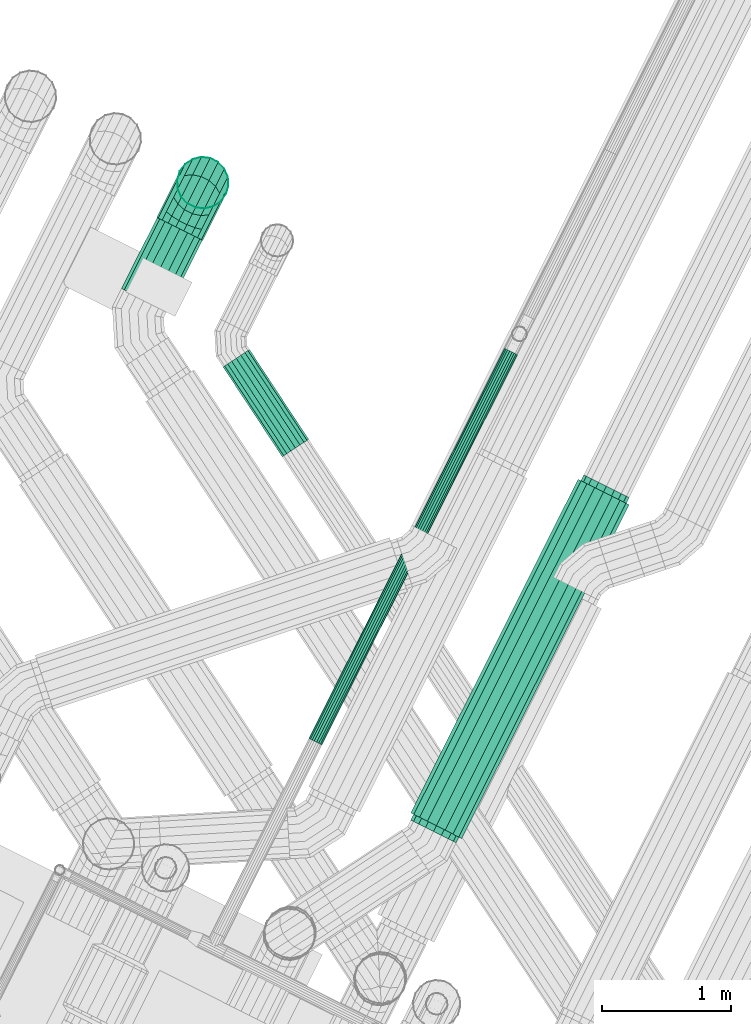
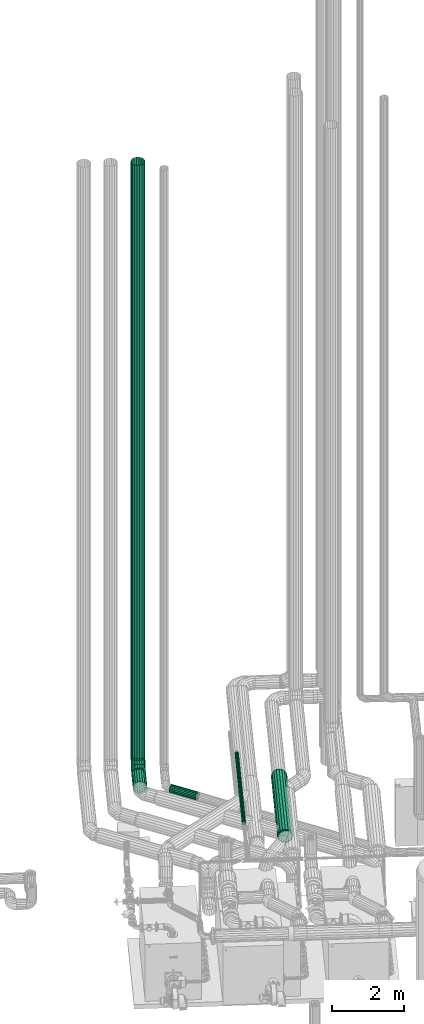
# One storey, part 20 of 206: 4 flow segments, 1 flow fitting, 1 flow treatment device.
"""IFC2X3 building model written with IfcOpenShell, lengths in metres."""

from ifc_helpers import new_model, si_unit, derived_unit, direction, frame, origin, place, context, subcontext, project, spatial, face_set, surface_model, source, transform, mapped, material, type_object, type_shapes, element, save


model = new_model("IFC2X3")

# Units and contexts
model_context = context("Model", 3, precision=5.2338327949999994e-05, world=origin(), true_north=direction((0.0, 1.0)))
body_context = subcontext(model_context, "Body", "Model", "MODEL_VIEW")
ifc_project = project(units=[si_unit("LENGTHUNIT", "METRE"), si_unit("AREAUNIT", "SQUARE_METRE"), si_unit("VOLUMEUNIT", "CUBIC_METRE"), si_unit("MASSUNIT", "GRAM", prefix="KILO"), si_unit("PLANEANGLEUNIT", "RADIAN"), derived_unit("THERMALTRANSMITTANCEUNIT", [(si_unit("MASSUNIT", "GRAM", prefix="KILO"), 1), (si_unit("THERMODYNAMICTEMPERATUREUNIT", "KELVIN"), -1), (si_unit("TIMEUNIT", "SECOND"), -3)])], contexts=[model_context])

# Site, building, storey
site_placement = place(None, frame((0.0, 0.0, 0.0), z_axis=(0.0, 0.0, 1.0), x_axis=(0.8939966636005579, -0.4480736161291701, 0.0)))
site = spatial("IfcSite", under=ifc_project, at=site_placement, Name="Default", CompositionType="ELEMENT")
building_placement = place(site_placement, origin())
building = spatial("IfcBuilding", under=site, at=building_placement, CompositionType="ELEMENT")
storey_placement = place(building_placement, origin())
storey = spatial("IfcBuildingStorey", under=building, at=storey_placement, Name="Erdgeschoss", CompositionType="ELEMENT", Elevation=0.0)

# Flow fitting
ifc_material_1 = material(Name="IfcSurfaceStyle #251447")
distribution_element_type_1 = type_object("IfcDistributionElementType", Name="Segmentbogen 4 teilig 281778:Segmentbogen 4 teilig 281778", material=ifc_material_1)
shared_shape_1 = source(origin(), body_context, "Body", "SurfaceModel", [
    surface_model("IfcFaceBasedSurfaceModel", [(20.75725947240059, 12.947668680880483, 2.200000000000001), (20.76932094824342, 12.947668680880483, 2.2684040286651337), (20.76932094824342, 13.036519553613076, 2.2684040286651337), (20.75725947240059, 13.054848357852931, 2.200000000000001), (20.804050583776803, 12.947668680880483, 2.3285575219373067), (20.804050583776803, 13.020401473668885, 2.3285575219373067), (20.857259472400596, 12.947668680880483, 2.3732050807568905), (20.857259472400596, 13.008438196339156, 2.3732050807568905), (20.922529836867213, 12.947668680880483, 2.3969615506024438), (20.922529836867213, 13.002072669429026, 2.3969615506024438), (20.99198910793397, 12.947668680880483, 2.396961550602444), (20.99198910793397, 13.002072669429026, 2.396961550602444), (21.05725947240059, 12.947668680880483, 2.373205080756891), (21.05725947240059, 13.008438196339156, 2.373205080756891), (21.110468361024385, 12.947668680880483, 2.3285575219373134), (21.110468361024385, 13.020401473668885, 2.3285575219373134), (21.145197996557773, 12.947668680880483, 2.268404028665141), (21.145197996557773, 13.036519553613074, 2.268404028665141), (21.1572594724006, 12.947668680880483, 2.200000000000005), (21.157259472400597, 13.054848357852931, 2.199999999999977), (21.145197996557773, 12.947668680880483, 2.13159597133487), (21.145197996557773, 13.07317716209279, 2.13159597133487), (21.110468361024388, 12.947668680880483, 2.071442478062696), (21.110468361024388, 13.08929524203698, 2.071442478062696), (21.057259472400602, 12.947668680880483, 2.0267949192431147), (21.057259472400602, 13.10125851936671, 2.0267949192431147), (20.991989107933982, 12.947668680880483, 2.0030384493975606), (20.991989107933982, 13.107624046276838, 2.0030384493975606), (20.922529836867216, 12.947668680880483, 2.0030384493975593), (20.922529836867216, 13.107624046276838, 2.0030384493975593), (20.8572594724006, 12.947668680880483, 2.026794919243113), (20.8572594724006, 13.10125851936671, 2.026794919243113), (20.804050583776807, 12.947668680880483, 2.071442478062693), (20.804050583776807, 13.08929524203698, 2.071442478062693), (20.76932094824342, 12.947668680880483, 2.131595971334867), (20.76932094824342, 13.07317716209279, 2.131595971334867), (20.769320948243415, 13.190413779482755, 2.3572549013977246), (20.757259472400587, 13.240489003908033, 2.307179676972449), (20.804050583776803, 13.146378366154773, 2.4012903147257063), (20.85725947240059, 13.113694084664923, 2.4339745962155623), (20.922529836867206, 13.096303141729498, 2.451365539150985), (20.991989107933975, 13.096303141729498, 2.4513655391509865), (21.05725947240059, 13.113694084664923, 2.4339745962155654), (21.110468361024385, 13.146378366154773, 2.4012903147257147), (21.145197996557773, 13.190413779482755, 2.3572549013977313), (21.157259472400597, 13.240489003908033, 2.307179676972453), (21.145197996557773, 13.290564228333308, 2.2571044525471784), (21.110468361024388, 13.334599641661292, 2.2130690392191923), (21.057259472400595, 13.367283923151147, 2.1803847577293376), (20.991989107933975, 13.38467486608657, 2.162993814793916), (20.922529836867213, 13.38467486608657, 2.1629938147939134), (20.8572594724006, 13.367283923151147, 2.180384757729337), (20.804050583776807, 13.334599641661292, 2.2130690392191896), (20.76932094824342, 13.290564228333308, 2.2571044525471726), (20.76932094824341, 13.279264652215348, 2.5111491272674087), (20.75725947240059, 13.347668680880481, 2.4928203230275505), (20.804050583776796, 13.219111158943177, 2.5272672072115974), (20.85725947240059, 13.174463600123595, 2.539230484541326), (20.922529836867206, 13.15070713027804, 2.5455960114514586), (20.99198910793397, 13.15070713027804, 2.54559601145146), (21.05725947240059, 13.174463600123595, 2.539230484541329), (21.110468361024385, 13.219111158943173, 2.5272672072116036), (21.145197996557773, 13.279264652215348, 2.511149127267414), (21.157259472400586, 13.347668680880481, 2.4928203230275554), (21.14519799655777, 13.416072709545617, 2.474491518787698), (21.110468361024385, 13.476226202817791, 2.458373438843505), (21.05725947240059, 13.520873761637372, 2.446410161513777), (20.991989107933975, 13.544630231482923, 2.440044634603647), (20.922529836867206, 13.544630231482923, 2.440044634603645), (20.85725947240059, 13.52087376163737, 2.4464101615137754), (20.804050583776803, 13.476226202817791, 2.4583734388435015), (20.769320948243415, 13.41607270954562, 2.4744915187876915), (20.769320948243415, 13.279264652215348, 2.5999999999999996), (20.757259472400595, 13.347668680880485, 2.5999999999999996), (20.804050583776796, 13.219111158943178, 2.5999999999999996), (20.857259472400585, 13.174463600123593, 2.6), (20.922529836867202, 13.15070713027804, 2.6000000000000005), (20.99198910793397, 13.15070713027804, 2.6000000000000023), (21.05725947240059, 13.174463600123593, 2.6000000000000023), (21.110468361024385, 13.219111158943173, 2.600000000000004), (21.14519799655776, 13.279264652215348, 2.600000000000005), (21.157259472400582, 13.347668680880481, 2.600000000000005), (21.145197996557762, 13.416072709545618, 2.600000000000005), (21.11046836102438, 13.476226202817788, 2.600000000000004), (21.057259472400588, 13.520873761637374, 2.6000000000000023), (20.99198910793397, 13.544630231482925, 2.6000000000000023), (20.922529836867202, 13.544630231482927, 2.6), (20.857259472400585, 13.520873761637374, 2.6), (20.804050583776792, 13.476226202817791, 2.5999999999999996), (20.76932094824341, 13.416072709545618, 2.5999999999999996)], [face_set([[[0, 1, 2, 3]], [[1, 4, 5, 2]], [[4, 6, 7, 5]], [[6, 8, 9, 7]], [[8, 10, 11, 9]], [[10, 12, 13, 11]], [[12, 14, 15, 13]], [[14, 16, 17, 15]], [[16, 18, 19, 17]], [[18, 20, 21, 19]], [[20, 22, 23, 21]], [[22, 24, 25, 23]], [[24, 26, 27, 25]], [[26, 28, 29, 27]], [[28, 30, 31, 29]], [[30, 32, 33, 31]], [[32, 34, 35, 33]], [[34, 0, 3, 35]], [[3, 2, 36, 37]], [[2, 5, 38, 36]], [[5, 7, 39, 38]], [[7, 9, 40, 39]], [[9, 11, 41, 40]], [[11, 13, 42, 41]], [[13, 15, 43, 42]], [[15, 17, 44, 43]], [[17, 19, 45, 44]], [[19, 21, 46, 45]], [[21, 23, 47, 46]], [[23, 25, 48, 47]], [[25, 27, 49, 48]], [[27, 29, 50, 49]], [[29, 31, 51, 50]], [[31, 33, 52, 51]], [[33, 35, 53, 52]], [[35, 3, 37, 53]], [[37, 36, 54, 55]], [[36, 38, 56, 54]], [[38, 39, 57, 56]], [[39, 40, 58, 57]], [[40, 41, 59, 58]], [[41, 42, 60, 59]], [[42, 43, 61, 60]], [[43, 44, 62, 61]], [[44, 45, 63, 62]], [[45, 46, 64, 63]], [[46, 47, 65, 64]], [[47, 48, 66, 65]], [[48, 49, 67, 66]], [[49, 50, 68, 67]], [[50, 51, 69, 68]], [[51, 52, 70, 69]], [[52, 53, 71, 70]], [[53, 37, 55, 71]], [[55, 54, 72, 73]], [[54, 56, 74, 72]], [[56, 57, 75, 74]], [[57, 58, 76, 75]], [[58, 59, 77, 76]], [[59, 60, 78, 77]], [[60, 61, 79, 78]], [[61, 62, 80, 79]], [[62, 63, 81, 80]], [[63, 64, 82, 81]], [[64, 65, 83, 82]], [[65, 66, 84, 83]], [[66, 67, 85, 84]], [[67, 68, 86, 85]], [[68, 69, 87, 86]], [[69, 70, 88, 87]], [[70, 71, 89, 88]], [[71, 55, 73, 89]]])]),
])
type_shapes(distribution_element_type_1, [shared_shape_1])
flow_fitting_placement = place(storey_placement, origin())
element("IfcFlowFitting", 1, at=flow_fitting_placement, inside=storey, type_object=distribution_element_type_1, material=ifc_material_1, Name="Segmentbogen 4 teilig", ObjectType="Segmentbogen 4 teilig", context=body_context, shape_type="MappedRepresentation", body=[
    mapped(shared_shape_1, transform((0.0, 0.0, 0.0), scale=1.0)),
])

# Flow segments
distribution_element_type_2 = type_object("IfcDistributionElementType", Name="Wickelfalzrohr 281801:Wickelfalzrohr 281801", material=ifc_material_1)
shared_shape_2 = source(origin(), body_context, "Body", "SurfaceModel", [
    surface_model("IfcFaceBasedSurfaceModel", [(20.957259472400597, 12.330085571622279, 2.0), (20.888855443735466, 12.330085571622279, 2.012061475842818), (20.888855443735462, 12.947668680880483, 2.012061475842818), (20.957259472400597, 12.947668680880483, 2.0), (20.828701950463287, 12.330085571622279, 2.0467911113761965), (20.828701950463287, 12.947668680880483, 2.0467911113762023), (20.784054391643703, 12.330085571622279, 2.0999999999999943), (20.784054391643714, 12.947668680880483, 2.0999999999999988), (20.760297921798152, 12.330085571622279, 2.1652703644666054), (20.76029792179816, 12.947668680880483, 2.165270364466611), (20.76029792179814, 12.330085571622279, 2.2347296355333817), (20.760297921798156, 12.947668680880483, 2.2347296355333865), (20.7840543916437, 12.330085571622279, 2.2999999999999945), (20.784054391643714, 12.947668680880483, 2.3000000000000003), (20.828701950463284, 12.330085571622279, 2.353208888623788), (20.82870195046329, 12.947668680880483, 2.3532088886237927), (20.88885544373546, 12.330085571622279, 2.3879385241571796), (20.888855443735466, 12.947668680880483, 2.3879385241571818), (20.95725947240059, 12.330085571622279, 2.4000000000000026), (20.957259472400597, 12.947668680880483, 2.400000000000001), (21.025663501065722, 12.330085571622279, 2.3879385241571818), (21.02566350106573, 12.947668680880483, 2.3879385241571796), (21.0858169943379, 12.330085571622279, 2.353208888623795), (21.085816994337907, 12.947668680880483, 2.353208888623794), (21.130464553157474, 12.330085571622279, 2.3), (21.13046455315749, 12.947668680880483, 2.2999999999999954), (21.154221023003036, 12.330085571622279, 2.2347296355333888), (21.154221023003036, 12.947668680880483, 2.2347296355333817), (21.154221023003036, 12.330085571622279, 2.1652703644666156), (21.15422102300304, 12.947668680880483, 2.1652703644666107), (21.130464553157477, 12.330085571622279, 2.1000000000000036), (21.130464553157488, 12.947668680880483, 2.099999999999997), (21.085816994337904, 12.330085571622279, 2.046791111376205), (21.085816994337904, 12.947668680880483, 2.0467911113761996), (21.02566350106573, 12.330085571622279, 2.012061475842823), (21.025663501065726, 12.947668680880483, 2.0120614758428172)], [face_set([[[0, 1, 2, 3]], [[1, 4, 5, 2]], [[4, 6, 7, 5]], [[6, 8, 9, 7]], [[8, 10, 11, 9]], [[10, 12, 13, 11]], [[12, 14, 15, 13]], [[14, 16, 17, 15]], [[16, 18, 19, 17]], [[18, 20, 21, 19]], [[20, 22, 23, 21]], [[22, 24, 25, 23]], [[24, 26, 27, 25]], [[26, 28, 29, 27]], [[28, 30, 31, 29]], [[30, 32, 33, 31]], [[32, 34, 35, 33]], [[34, 0, 3, 35]]])]),
])
type_shapes(distribution_element_type_2, [shared_shape_2])
flow_segment_1_placement = place(storey_placement, origin())
element("IfcFlowSegment", 2, at=flow_segment_1_placement, inside=storey, type_object=distribution_element_type_2, material=ifc_material_1, Name="Wickelfalzrohr", ObjectType="Wickelfalzrohr", context=body_context, shape_type="MappedRepresentation", body=[
    mapped(shared_shape_2, transform((0.0, 0.0, 0.0), scale=1.0)),
])
distribution_element_type_3 = type_object("IfcDistributionElementType", Name="Wickelfalzrohr 281956:Wickelfalzrohr 281956", material=ifc_material_1)
shared_shape_3 = source(origin(), body_context, "Body", "SurfaceModel", [
    surface_model("IfcFaceBasedSurfaceModel", [(20.7572594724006, 13.347668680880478, 2.6), (20.76932094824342, 13.279264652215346, 2.6), (20.76932094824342, 13.279264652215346, 22.599999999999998), (20.7572594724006, 13.34766868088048, 22.599999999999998), (20.804050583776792, 13.219111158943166, 2.6), (20.804050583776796, 13.21911115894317, 22.599999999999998), (20.857259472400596, 13.174463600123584, 2.6), (20.85725947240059, 13.174463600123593, 22.599999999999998), (20.922529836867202, 13.150707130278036, 2.6), (20.922529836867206, 13.15070713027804, 22.599999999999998), (20.991989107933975, 13.150707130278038, 2.6), (20.991989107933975, 13.150707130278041, 22.599999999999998), (21.05725947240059, 13.174463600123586, 2.6), (21.05725947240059, 13.174463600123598, 22.599999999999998), (21.110468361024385, 13.219111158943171, 2.6), (21.110468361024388, 13.21911115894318, 22.599999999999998), (21.14519799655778, 13.279264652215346, 2.6), (21.145197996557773, 13.279264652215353, 22.599999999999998), (21.1572594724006, 13.347668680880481, 2.6), (21.157259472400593, 13.34766868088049, 22.599999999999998), (21.145197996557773, 13.416072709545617, 2.6), (21.145197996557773, 13.416072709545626, 22.599999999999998), (21.110468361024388, 13.476226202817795, 2.6), (21.110468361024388, 13.476226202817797, 22.599999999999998), (21.057259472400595, 13.52087376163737, 2.6), (21.057259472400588, 13.52087376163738, 22.599999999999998), (20.99198910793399, 13.54463023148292, 2.6), (20.991989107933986, 13.54463023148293, 22.599999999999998), (20.922529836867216, 13.544630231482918, 2.6), (20.922529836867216, 13.544630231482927, 22.599999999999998), (20.857259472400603, 13.520873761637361, 2.6), (20.857259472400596, 13.520873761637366, 22.599999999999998), (20.804050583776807, 13.476226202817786, 2.6), (20.804050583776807, 13.476226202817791, 22.599999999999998), (20.769320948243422, 13.41607270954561, 2.6), (20.76932094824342, 13.416072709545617, 22.599999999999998)], [face_set([[[0, 1, 2, 3]], [[1, 4, 5, 2]], [[4, 6, 7, 5]], [[6, 8, 9, 7]], [[8, 10, 11, 9]], [[10, 12, 13, 11]], [[12, 14, 15, 13]], [[14, 16, 17, 15]], [[16, 18, 19, 17]], [[18, 20, 21, 19]], [[20, 22, 23, 21]], [[22, 24, 25, 23]], [[24, 26, 27, 25]], [[26, 28, 29, 27]], [[28, 30, 31, 29]], [[30, 32, 33, 31]], [[32, 34, 35, 33]], [[34, 0, 3, 35]]])]),
])
type_shapes(distribution_element_type_3, [shared_shape_3])
flow_segment_2_placement = place(storey_placement, origin())
element("IfcFlowSegment", 3, at=flow_segment_2_placement, inside=storey, type_object=distribution_element_type_3, material=ifc_material_1, Name="Wickelfalzrohr", ObjectType="Wickelfalzrohr", context=body_context, shape_type="MappedRepresentation", body=[
    mapped(shared_shape_3, transform((0.0, 0.0, 0.0), scale=1.0)),
])
distribution_element_type_4 = type_object("IfcDistributionElementType", Name="Wickelfalzrohr 284500:Wickelfalzrohr 284500", material=ifc_material_1)
shared_shape_4 = source(origin(), body_context, "Body", "SurfaceModel", [
    surface_model("IfcFaceBasedSurfaceModel", [(22.52306327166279, 11.828097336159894, 2.075), (22.50168701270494, 11.791072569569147, 2.0825384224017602), (21.778394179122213, 12.208665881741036, 2.082538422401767), (21.799770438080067, 12.245690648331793, 2.075000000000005), (22.482889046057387, 11.758513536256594, 2.104244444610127), (21.759596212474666, 12.17610684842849, 2.1042444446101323), (22.468936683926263, 11.734347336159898, 2.137499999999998), (21.745643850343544, 12.15194064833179, 2.137500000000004), (22.46151278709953, 11.72148876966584, 2.1782939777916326), (21.738219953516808, 12.139082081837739, 2.178293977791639), (22.461512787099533, 11.721488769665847, 2.2217060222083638), (21.7382199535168, 12.13908208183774, 2.2217060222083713), (22.468936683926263, 11.734347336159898, 2.2624999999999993), (21.745643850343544, 12.151940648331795, 2.2625000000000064), (22.482889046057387, 11.7585135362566, 2.29575555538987), (21.759596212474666, 12.176106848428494, 2.2957555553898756), (22.50168701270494, 11.79107256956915, 2.3174615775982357), (21.778394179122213, 12.208665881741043, 2.317461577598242), (22.5230632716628, 11.828097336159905, 2.324999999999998), (21.799770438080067, 12.245690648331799, 2.325000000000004), (22.54443953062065, 11.86512210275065, 2.3174615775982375), (21.82114669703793, 12.28271541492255, 2.317461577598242), (22.5632374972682, 11.897681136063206, 2.2957555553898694), (21.839944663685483, 12.315274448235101, 2.2957555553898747), (22.577189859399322, 11.921847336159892, 2.2624999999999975), (21.8538970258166, 12.339440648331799, 2.262500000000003), (22.584613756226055, 11.934705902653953, 2.221706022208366), (21.86132092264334, 12.352299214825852, 2.221706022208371), (22.584613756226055, 11.934705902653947, 2.1782939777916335), (21.861320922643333, 12.352299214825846, 2.178293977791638), (22.577189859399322, 11.921847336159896, 2.1374999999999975), (21.8538970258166, 12.339440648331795, 2.137500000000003), (22.5632374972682, 11.897681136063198, 2.104244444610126), (21.83994466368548, 12.3152744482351, 2.104244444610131), (22.54443953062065, 11.865122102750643, 2.082538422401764), (21.82114669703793, 12.282715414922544, 2.082538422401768)], [face_set([[[0, 1, 2, 3]], [[1, 4, 5, 2]], [[4, 6, 7, 5]], [[6, 8, 9, 7]], [[8, 10, 11, 9]], [[10, 12, 13, 11]], [[12, 14, 15, 13]], [[14, 16, 17, 15]], [[16, 18, 19, 17]], [[18, 20, 21, 19]], [[20, 22, 23, 21]], [[22, 24, 25, 23]], [[24, 26, 27, 25]], [[26, 28, 29, 27]], [[28, 30, 31, 29]], [[30, 32, 33, 31]], [[32, 34, 35, 33]], [[34, 0, 3, 35]]])]),
])
type_shapes(distribution_element_type_4, [shared_shape_4])
flow_segment_3_placement = place(storey_placement, origin())
element("IfcFlowSegment", 4, at=flow_segment_3_placement, inside=storey, type_object=distribution_element_type_4, material=ifc_material_1, Name="Wickelfalzrohr", ObjectType="Wickelfalzrohr", context=body_context, shape_type="MappedRepresentation", body=[
    mapped(shared_shape_4, transform((0.0, 0.0, 0.0), scale=1.0)),
])
ifc_material_2 = material(Name="IfcSurfaceStyle #352577")
distribution_element_type_5 = type_object("IfcDistributionElementType", Name="Stahlrohr nach DIN 2448 352931:Stahlrohr nach DIN 2448 352931", material=ifc_material_2)
shared_shape_5 = source(origin(), body_context, "Body", "SurfaceModel", [
    surface_model("IfcFaceBasedSurfaceModel", [(23.626680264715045, 13.248101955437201, 2.605164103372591), (23.630126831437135, 13.248101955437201, 2.585617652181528), (23.630126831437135, 9.857735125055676, 2.585617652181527), (23.626680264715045, 9.857735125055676, 2.6051641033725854), (23.640050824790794, 13.248101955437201, 2.5684287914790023), (23.640050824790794, 9.857735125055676, 2.568428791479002), (23.655255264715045, 13.248101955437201, 2.555670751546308), (23.655255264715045, 9.857735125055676, 2.5556707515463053), (23.67390627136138, 13.248101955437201, 2.5488823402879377), (23.67390627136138, 9.857735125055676, 2.548882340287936), (23.69375425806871, 13.248101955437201, 2.5488823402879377), (23.69375425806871, 9.857735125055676, 2.5488823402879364), (23.71240526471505, 13.248101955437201, 2.5556707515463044), (23.71240526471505, 9.857735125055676, 2.555670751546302), (23.727609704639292, 13.248101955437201, 2.568428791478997), (23.727609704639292, 9.857735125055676, 2.5684287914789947), (23.737533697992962, 13.248101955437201, 2.58561765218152), (23.737533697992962, 9.857735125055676, 2.5856176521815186), (23.74098026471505, 13.248101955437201, 2.60516410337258), (23.74098026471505, 9.857735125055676, 2.6051641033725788), (23.737533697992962, 13.248101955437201, 2.6247105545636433), (23.73753369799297, 9.857735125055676, 2.624710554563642), (23.727609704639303, 13.248101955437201, 2.6418994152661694), (23.727609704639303, 9.857735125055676, 2.641899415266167), (23.712405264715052, 13.248101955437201, 2.654657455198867), (23.71240526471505, 9.857735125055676, 2.6546574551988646), (23.693754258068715, 13.248101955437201, 2.6614458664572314), (23.69375425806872, 9.857735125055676, 2.6614458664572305), (23.67390627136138, 13.248101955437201, 2.6614458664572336), (23.673906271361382, 9.857735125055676, 2.6614458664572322), (23.65525526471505, 13.248101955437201, 2.6546574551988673), (23.65525526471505, 9.857735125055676, 2.654657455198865), (23.640050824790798, 13.248101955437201, 2.641899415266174), (23.640050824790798, 9.857735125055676, 2.641899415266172), (23.630126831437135, 13.248101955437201, 2.624710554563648), (23.630126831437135, 9.857735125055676, 2.624710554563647)], [face_set([[[0, 1, 2, 3]], [[1, 4, 5, 2]], [[4, 6, 7, 5]], [[6, 8, 9, 7]], [[8, 10, 11, 9]], [[10, 12, 13, 11]], [[12, 14, 15, 13]], [[14, 16, 17, 15]], [[16, 18, 19, 17]], [[18, 20, 21, 19]], [[20, 22, 23, 21]], [[22, 24, 25, 23]], [[24, 26, 27, 25]], [[26, 28, 29, 27]], [[28, 30, 31, 29]], [[30, 32, 33, 31]], [[32, 34, 35, 33]], [[34, 0, 3, 35]]])]),
])
type_shapes(distribution_element_type_5, [shared_shape_5])
flow_segment_4_placement = place(storey_placement, origin())
element("IfcFlowSegment", 5, at=flow_segment_4_placement, inside=storey, type_object=distribution_element_type_5, material=ifc_material_2, Name="Stahlrohr nach DIN 2448", ObjectType="Stahlrohr nach DIN 2448", context=body_context, shape_type="MappedRepresentation", body=[
    mapped(shared_shape_5, transform((0.0, 0.0, 0.0), scale=1.0)),
])

# Flow treatment device
ifc_material_3 = material(Name="IfcSurfaceStyle #280217")
distribution_element_type_6 = type_object("IfcDistributionElementType", Name="Telefonieschalldämpfer 620622:Telefonieschalldämpfer 620622", material=ifc_material_3)
shared_shape_6 = source(origin(), body_context, "Body", "SurfaceModel", [
    surface_model("IfcFaceBasedSurfaceModel", [(24.81570478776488, 9.64543015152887, 2.4600000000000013), (24.884108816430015, 9.64543015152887, 2.447938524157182), (24.884108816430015, 9.695430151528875, 2.4479385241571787), (24.81570478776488, 9.695430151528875, 2.4599999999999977), (24.944262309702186, 9.64543015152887, 2.4132088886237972), (24.944262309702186, 9.69543015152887, 2.4132088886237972), (24.98890986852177, 9.645430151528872, 2.3600000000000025), (24.98890986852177, 9.695430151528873, 2.3599999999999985), (25.012666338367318, 9.645430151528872, 2.2947296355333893), (25.012666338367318, 9.695430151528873, 2.2947296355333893), (25.01266633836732, 9.645430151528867, 2.2252703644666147), (25.01266633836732, 9.695430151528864, 2.2252703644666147), (24.98890986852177, 9.645430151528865, 2.160000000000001), (24.98890986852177, 9.695430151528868, 2.160000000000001), (24.94426230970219, 9.645430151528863, 2.1067911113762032), (24.94426230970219, 9.695430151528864, 2.1067911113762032), (24.884108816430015, 9.645430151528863, 2.0720614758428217), (24.884108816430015, 9.695430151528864, 2.072061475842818), (24.815704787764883, 9.645430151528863, 2.0599999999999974), (24.815704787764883, 9.695430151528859, 2.0599999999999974), (24.747300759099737, 9.645430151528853, 2.0720614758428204), (24.74730075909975, 9.695430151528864, 2.072061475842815), (24.687147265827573, 9.645430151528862, 2.1067911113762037), (24.687147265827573, 9.695430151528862, 2.1067911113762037), (24.64249970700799, 9.645430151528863, 2.1599999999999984), (24.64249970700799, 9.695430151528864, 2.1599999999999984), (24.61874323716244, 9.645430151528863, 2.2252703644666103), (24.61874323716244, 9.695430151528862, 2.2252703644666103), (24.618743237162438, 9.645430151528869, 2.294729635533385), (24.618743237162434, 9.69543015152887, 2.294729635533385), (24.64249970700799, 9.64543015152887, 2.3599999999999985), (24.64249970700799, 9.69543015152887, 2.359999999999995), (24.687147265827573, 9.64543015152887, 2.41320888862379), (24.687147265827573, 9.69543015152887, 2.41320888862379), (24.747300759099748, 9.64543015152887, 2.447938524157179), (24.747300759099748, 9.695430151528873, 2.4479385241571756), (24.81570478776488, 9.695430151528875, 2.4849999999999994), (24.892659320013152, 9.695430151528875, 2.4714308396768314), (24.89265932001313, 12.595430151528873, 2.471430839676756), (24.815704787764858, 12.595430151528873, 2.4849999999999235), (24.960331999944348, 9.695430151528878, 2.432359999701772), (24.96033199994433, 12.595430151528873, 2.4323599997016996), (25.01056050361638, 9.695430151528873, 2.372500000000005), (25.010560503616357, 12.595430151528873, 2.372499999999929), (25.037286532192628, 9.695430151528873, 2.299070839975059), (25.037286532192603, 12.595430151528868, 2.2990708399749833), (25.037286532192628, 9.69543015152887, 2.220929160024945), (25.037286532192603, 12.595430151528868, 2.220929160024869), (25.010560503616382, 9.69543015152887, 2.1475000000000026), (25.01056050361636, 12.595430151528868, 2.1474999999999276), (24.96033199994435, 9.69543015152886, 2.0876400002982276), (24.96033199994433, 12.595430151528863, 2.0876400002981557), (24.892659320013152, 9.695430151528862, 2.0485691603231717), (24.89265932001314, 12.595430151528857, 2.0485691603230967), (24.815704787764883, 9.695430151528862, 2.034999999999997), (24.81570478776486, 12.595430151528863, 2.034999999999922), (24.738750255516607, 9.695430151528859, 2.0485691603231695), (24.738750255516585, 12.59543015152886, 2.0485691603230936), (24.67107757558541, 9.695430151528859, 2.0876400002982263), (24.67107757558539, 12.59543015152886, 2.087640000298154), (24.620849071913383, 9.695430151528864, 2.147499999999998), (24.620849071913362, 12.595430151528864, 2.1474999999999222), (24.59412304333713, 9.695430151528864, 2.2209291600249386), (24.59412304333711, 12.595430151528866, 2.2209291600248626), (24.59412304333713, 9.69543015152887, 2.299070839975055), (24.59412304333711, 12.595430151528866, 2.299070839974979), (24.62084907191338, 9.69543015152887, 2.3724999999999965), (24.620849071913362, 12.595430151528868, 2.372499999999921), (24.671077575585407, 9.695430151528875, 2.4323599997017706), (24.67107757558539, 12.595430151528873, 2.4323599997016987), (24.738750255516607, 9.695430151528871, 2.4714308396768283), (24.738750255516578, 12.59543015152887, 2.4714308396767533), (24.815704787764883, 9.695430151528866, 2.2599999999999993), (24.81570478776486, 12.595430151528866, 2.2599999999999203), (24.815704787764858, 12.59543015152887, 2.4599999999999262), (24.88410881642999, 12.59543015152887, 2.447938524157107), (24.88410881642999, 12.645430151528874, 2.447938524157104), (24.815704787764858, 12.645430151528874, 2.459999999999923), (24.944262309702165, 12.595430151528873, 2.4132088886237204), (24.944262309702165, 12.645430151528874, 2.4132088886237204), (24.98890986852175, 12.595430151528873, 2.3599999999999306), (24.98890986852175, 12.64543015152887, 2.3599999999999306), (25.012666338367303, 12.595430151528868, 2.294729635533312), (25.012666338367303, 12.64543015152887, 2.294729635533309), (25.0126663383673, 12.595430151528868, 2.2252703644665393), (25.0126663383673, 12.64543015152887, 2.2252703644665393), (24.98890986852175, 12.595430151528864, 2.1599999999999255), (24.98890986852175, 12.645430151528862, 2.1599999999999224), (24.944262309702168, 12.595430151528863, 2.1067911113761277), (24.944262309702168, 12.64543015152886, 2.106791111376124), (24.884108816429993, 12.595430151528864, 2.0720614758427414), (24.884108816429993, 12.645430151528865, 2.072061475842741), (24.81570478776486, 12.595430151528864, 2.0599999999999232), (24.81570478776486, 12.645430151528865, 2.0599999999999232), (24.747300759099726, 12.595430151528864, 2.0720614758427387), (24.747300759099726, 12.645430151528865, 2.072061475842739), (24.68714726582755, 12.59543015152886, 2.1067911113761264), (24.687147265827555, 12.645430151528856, 2.106791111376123), (24.64249970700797, 12.595430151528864, 2.159999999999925), (24.64249970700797, 12.645430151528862, 2.159999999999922), (24.61874323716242, 12.595430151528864, 2.225270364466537), (24.61874323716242, 12.645430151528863, 2.225270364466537), (24.618743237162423, 12.595430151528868, 2.2947296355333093), (24.61874323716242, 12.645430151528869, 2.294729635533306), (24.642499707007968, 12.595430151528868, 2.359999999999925), (24.642499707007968, 12.64543015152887, 2.3599999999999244), (24.687147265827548, 12.59543015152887, 2.4132088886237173), (24.687147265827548, 12.645430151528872, 2.4132088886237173), (24.747300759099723, 12.59543015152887, 2.447938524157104), (24.747300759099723, 12.645430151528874, 2.447938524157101)], [face_set([[[0, 1, 2, 3]], [[1, 4, 5, 2]], [[4, 6, 7, 5]], [[6, 8, 9, 7]], [[8, 10, 11, 9]], [[10, 12, 13, 11]], [[12, 14, 15, 13]], [[14, 16, 17, 15]], [[16, 18, 19, 17]], [[18, 20, 21, 19]], [[20, 22, 23, 21]], [[22, 24, 25, 23]], [[24, 26, 27, 25]], [[26, 28, 29, 27]], [[28, 30, 31, 29]], [[30, 32, 33, 31]], [[32, 34, 35, 33]], [[34, 0, 3, 35]], [[36, 37, 38, 39]], [[37, 40, 41, 38]], [[40, 42, 43, 41]], [[42, 44, 45, 43]], [[44, 46, 47, 45]], [[46, 48, 49, 47]], [[48, 50, 51, 49]], [[50, 52, 53, 51]], [[52, 54, 55, 53]], [[54, 56, 57, 55]], [[56, 58, 59, 57]], [[58, 60, 61, 59]], [[60, 62, 63, 61]], [[62, 64, 65, 63]], [[64, 66, 67, 65]], [[66, 68, 69, 67]], [[68, 70, 71, 69]], [[70, 36, 39, 71]], [[72, 37, 36]], [[72, 40, 37]], [[72, 42, 40]], [[72, 44, 42]], [[72, 46, 44]], [[72, 48, 46]], [[72, 50, 48]], [[72, 52, 50]], [[72, 54, 52]], [[72, 56, 54]], [[72, 58, 56]], [[72, 60, 58]], [[72, 62, 60]], [[72, 64, 62]], [[72, 66, 64]], [[72, 68, 66]], [[72, 70, 68]], [[72, 36, 70]], [[73, 71, 39]], [[73, 69, 71]], [[73, 67, 69]], [[73, 65, 67]], [[73, 63, 65]], [[73, 61, 63]], [[73, 59, 61]], [[73, 57, 59]], [[73, 55, 57]], [[73, 53, 55]], [[73, 51, 53]], [[73, 49, 51]], [[73, 47, 49]], [[73, 45, 47]], [[73, 43, 45]], [[73, 41, 43]], [[73, 38, 41]], [[73, 39, 38]], [[74, 75, 76, 77]], [[75, 78, 79, 76]], [[78, 80, 81, 79]], [[80, 82, 83, 81]], [[82, 84, 85, 83]], [[84, 86, 87, 85]], [[86, 88, 89, 87]], [[88, 90, 91, 89]], [[90, 92, 93, 91]], [[92, 94, 95, 93]], [[94, 96, 97, 95]], [[96, 98, 99, 97]], [[98, 100, 101, 99]], [[100, 102, 103, 101]], [[102, 104, 105, 103]], [[104, 106, 107, 105]], [[106, 108, 109, 107]], [[108, 74, 77, 109]]])]),
])
type_shapes(distribution_element_type_6, [shared_shape_6])
flow_treatment_device_placement = place(storey_placement, origin())
element("IfcFlowTreatmentDevice", 6, at=flow_treatment_device_placement, inside=storey, type_object=distribution_element_type_6, material=ifc_material_3, Name="Telefonieschalldämpfer", ObjectType="Telefonieschalldämpfer", context=body_context, shape_type="MappedRepresentation", body=[
    mapped(shared_shape_6, transform((0.0, 0.0, 0.0), scale=1.0)),
])

save(model, "model.ifc")
